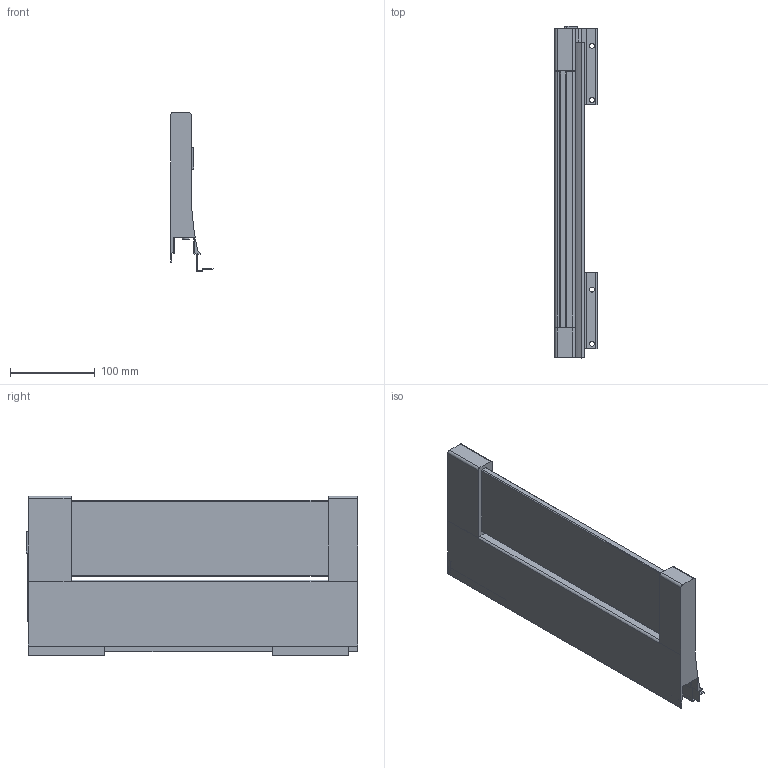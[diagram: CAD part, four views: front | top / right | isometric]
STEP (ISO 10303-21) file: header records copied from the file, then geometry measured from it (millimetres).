
FILE_DESCRIPTION (( 'STEP AP214' ), '1' );
FILE_NAME ('_XP Agantis Dekorseite H95 NL400 LI Top Glashalter.step', '2010-07-08T06:15:52', ( 'grass' ), ( '' ), 'SwSTEP 2.0', 'SolidWorks 2010', '' );
FILE_SCHEMA (( 'AUTOMOTIVE_DESIGN' ));
Length unit declared in the file: millimetre
Products named in the file (1): _XP Agantis Dekorseite H95 NL400 LI  Top Glashalter
Bounding box: 50.11 x 392.6 x 188.7 mm (x, y, z)
Volume: 965177.8 mm3; surface area: 213497 mm2
Topology: 1 solids, 1 shells, 134 faces, 392 edges, 257 vertices
Faces by surface type: plane 107, cylinder 27
Entity records: 4450 total; most frequent: ORIENTED_EDGE 784, CARTESIAN_POINT 784, DIRECTION 718, EDGE_CURVE 392, VECTOR 336, LINE 336, VERTEX_POINT 257, AXIS2_PLACEMENT_3D 191
